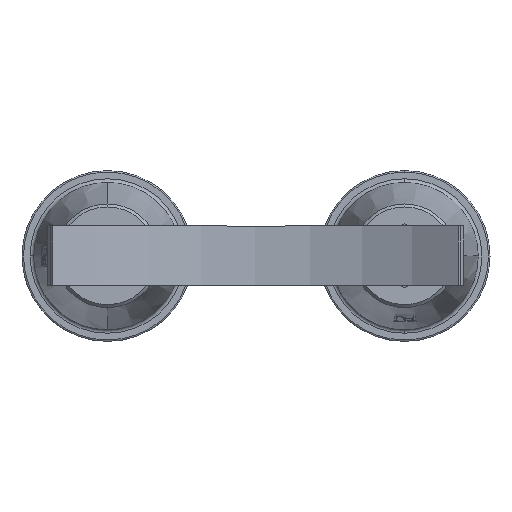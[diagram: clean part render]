
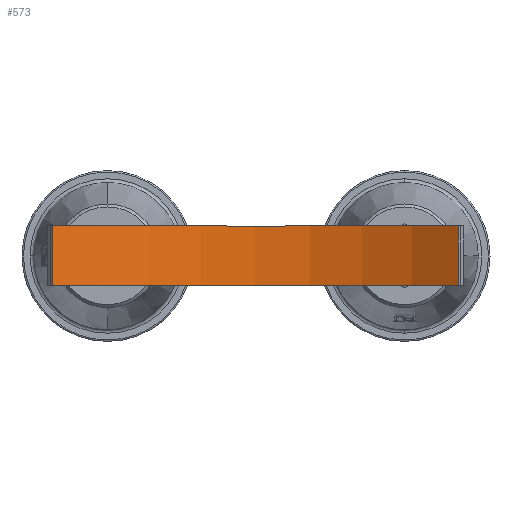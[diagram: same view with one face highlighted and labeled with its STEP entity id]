
A CAD part, top view. The second image highlights one B-rep face of the part: STEP entity #573.
In plain terms, the highlighted cylindrical face has radius 453 mm (diameter 906 mm), a partial arc.
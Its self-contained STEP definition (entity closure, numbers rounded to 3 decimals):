
#573=ADVANCED_FACE('',(#1189),#1190,.F.);
#1189=FACE_OUTER_BOUND('',#1905,.T.);
#1190=CYLINDRICAL_SURFACE('',#1906,453.);
#1905=EDGE_LOOP('',(#3235,#3236,#3237,#3238));
#1906=AXIS2_PLACEMENT_3D('',#3239,#3240,#3241);
#3235=ORIENTED_EDGE('',*,*,#4464,.T.);
#3236=ORIENTED_EDGE('',*,*,#4454,.F.);
#3237=ORIENTED_EDGE('',*,*,#4465,.T.);
#3238=ORIENTED_EDGE('',*,*,#4461,.T.);
#3239=CARTESIAN_POINT('',(368.48,603.605,513.632));
#3240=DIRECTION('',(0.,1.0,0.));
#3241=DIRECTION('',(-1.0,0.,0.));
#4454=EDGE_CURVE('',#5363,#5358,#5365,.T.);
#4461=EDGE_CURVE('',#5375,#5373,#5376,.T.);
#4464=EDGE_CURVE('',#5373,#5358,#5379,.T.);
#4465=EDGE_CURVE('',#5363,#5375,#5380,.T.);
#5358=VERTEX_POINT('',#7902);
#5363=VERTEX_POINT('',#7909);
#5365=LINE('',#7912,#7913);
#5373=VERTEX_POINT('',#7922);
#5375=VERTEX_POINT('',#7925);
#5376=LINE('',#7926,#7927);
#5379=CIRCLE('',#7931,453.);
#5380=CIRCLE('',#7932,453.);
#7902=CARTESIAN_POINT('',(94.696,683.605,152.729));
#7909=CARTESIAN_POINT('',(94.696,603.605,152.729));
#7912=CARTESIAN_POINT('',(94.696,603.605,152.729));
#7913=VECTOR('',#9495,1.);
#7922=CARTESIAN_POINT('',(640.998,683.605,151.772));
#7925=CARTESIAN_POINT('',(640.998,603.605,151.772));
#7926=CARTESIAN_POINT('',(640.998,603.605,151.772));
#7927=VECTOR('',#9504,1.);
#7931=AXIS2_PLACEMENT_3D('',#9506,#9507,#9508);
#7932=AXIS2_PLACEMENT_3D('',#9509,#9510,#9511);
#9495=DIRECTION('',(0.,1.0,0.));
#9504=DIRECTION('',(0.,1.0,0.));
#9506=CARTESIAN_POINT('',(368.48,683.605,513.632));
#9507=DIRECTION('',(0.,1.0,0.));
#9508=DIRECTION('',(-1.0,0.,0.));
#9509=CARTESIAN_POINT('',(368.48,603.605,513.632));
#9510=DIRECTION('',(0.,-1.0,0.));
#9511=DIRECTION('',(-1.0,0.,0.));
